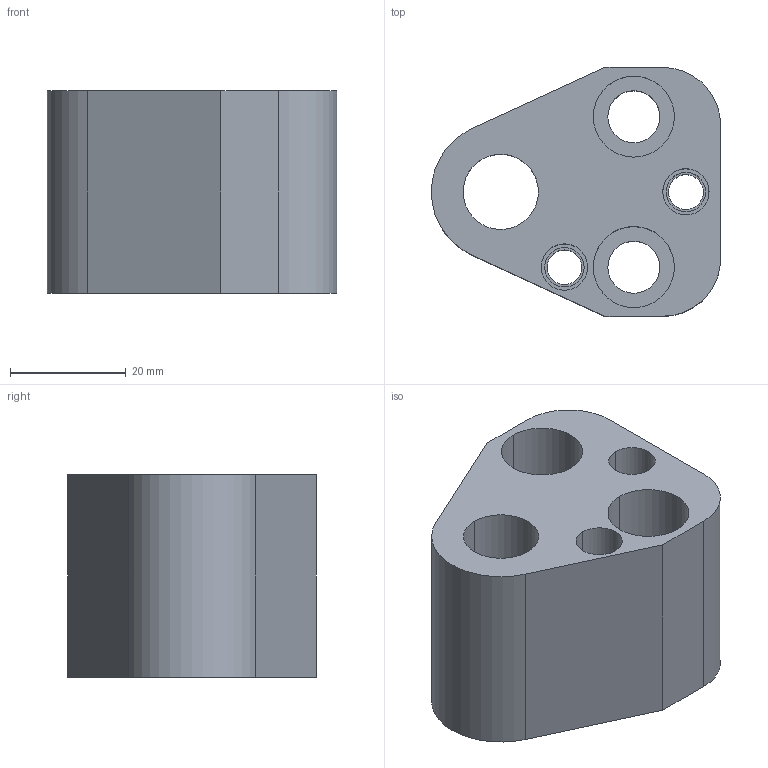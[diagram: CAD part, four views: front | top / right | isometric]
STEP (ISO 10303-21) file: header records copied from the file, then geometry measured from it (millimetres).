
FILE_DESCRIPTION(/* description */ (''),/* implementation_level */ '2;1');
FILE_NAME(/* name */ '3d_hap-an13_03998_r00.stp',/* time_stamp */ '2011-01-10T14:14:59+09:00',/* author */ ('MISUMI'),/* organization */ (''),/* preprocessor_version */ 'ST-DEVELOPER v11',/* originating_system */ 'UGS - NX 5.0',/* authorisation */ '');
FILE_SCHEMA (('CONFIG_CONTROL_DESIGN'));
Length unit declared in the file: millimetre
Products named in the file (1): 3d_hap-an13_03998_r00
Bounding box: 50 x 43 x 35 mm (x, y, z)
Volume: 42642.8 mm3; surface area: 13628 mm2
Topology: 1 solids, 1 shells, 43 faces, 100 edges, 66 vertices
Faces by surface type: cylinder 27, plane 14, cone 2
Entity records: 1360 total; most frequent: DIRECTION 244, CARTESIAN_POINT 210, ORIENTED_EDGE 200, EDGE_CURVE 100, AXIS2_PLACEMENT_3D 100, VERTEX_POINT 66, EDGE_LOOP 60, CIRCLE 56
